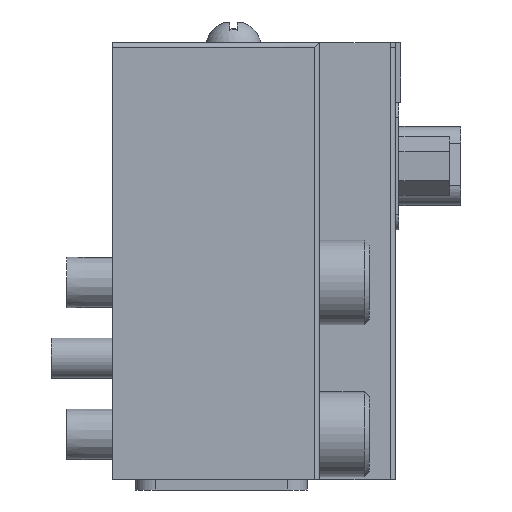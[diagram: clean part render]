
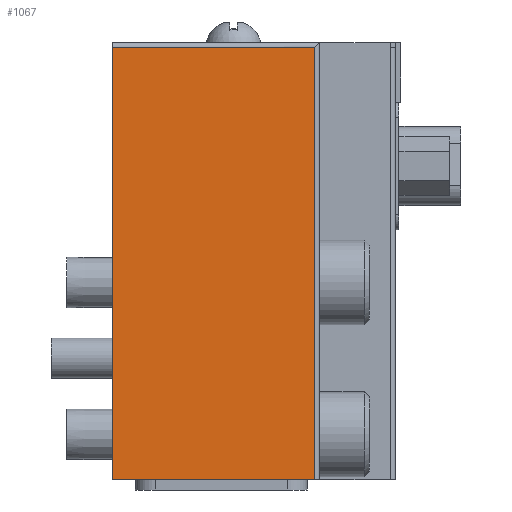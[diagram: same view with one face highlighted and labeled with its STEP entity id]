
A CAD part, left-side view. The second image highlights one B-rep face of the part: STEP entity #1067.
In plain terms, the highlighted planar face has unit normal (-1, 0, 0).
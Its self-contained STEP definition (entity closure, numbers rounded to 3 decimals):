
#1067=ADVANCED_FACE('',(#2199),#2200,.F.);
#2199=FACE_OUTER_BOUND('',#3679,.T.);
#2200=PLANE('',#3680);
#3679=EDGE_LOOP('',(#5583,#5584,#5585,#5586));
#3680=AXIS2_PLACEMENT_3D('',#5587,#5588,#5589);
#5583=ORIENTED_EDGE('',*,*,#8334,.T.);
#5584=ORIENTED_EDGE('',*,*,#8335,.T.);
#5585=ORIENTED_EDGE('',*,*,#8336,.F.);
#5586=ORIENTED_EDGE('',*,*,#8337,.F.);
#5587=CARTESIAN_POINT('',(-32.5,-28.0,-4.5));
#5588=DIRECTION('',(1.0,0.0,0.0));
#5589=DIRECTION('',(0.0,1.0,0.0));
#8334=EDGE_CURVE('',#9726,#9727,#9728,.T.);
#8335=EDGE_CURVE('',#9727,#9729,#9730,.T.);
#8336=EDGE_CURVE('',#9731,#9729,#9732,.T.);
#8337=EDGE_CURVE('',#9726,#9731,#9733,.T.);
#9726=VERTEX_POINT('',#11710);
#9727=VERTEX_POINT('',#11711);
#9728=LINE('',#11712,#11713);
#9729=VERTEX_POINT('',#11714);
#9730=LINE('',#11715,#11716);
#9731=VERTEX_POINT('',#11717);
#9732=LINE('',#11718,#11719);
#9733=LINE('',#11720,#11721);
#11710=CARTESIAN_POINT('',(-32.5,-20.0,-4.5));
#11711=CARTESIAN_POINT('',(-32.5,-20.0,38.2));
#11712=CARTESIAN_POINT('',(-32.5,-20.0,-4.5));
#11713=VECTOR('',#13600,1.0);
#11714=CARTESIAN_POINT('',(-32.5,0.0,38.2));
#11715=CARTESIAN_POINT('',(-32.5,-28.0,38.2));
#11716=VECTOR('',#13601,1.0);
#11717=CARTESIAN_POINT('',(-32.5,0.0,-4.5));
#11718=CARTESIAN_POINT('',(-32.5,0.0,-4.5));
#11719=VECTOR('',#13602,1.0);
#11720=CARTESIAN_POINT('',(-32.5,-28.0,-4.5));
#11721=VECTOR('',#13603,1.0);
#13600=DIRECTION('',(0.0,0.0,1.0));
#13601=DIRECTION('',(0.0,1.0,0.0));
#13602=DIRECTION('',(0.0,0.0,1.0));
#13603=DIRECTION('',(0.0,1.0,0.0));
